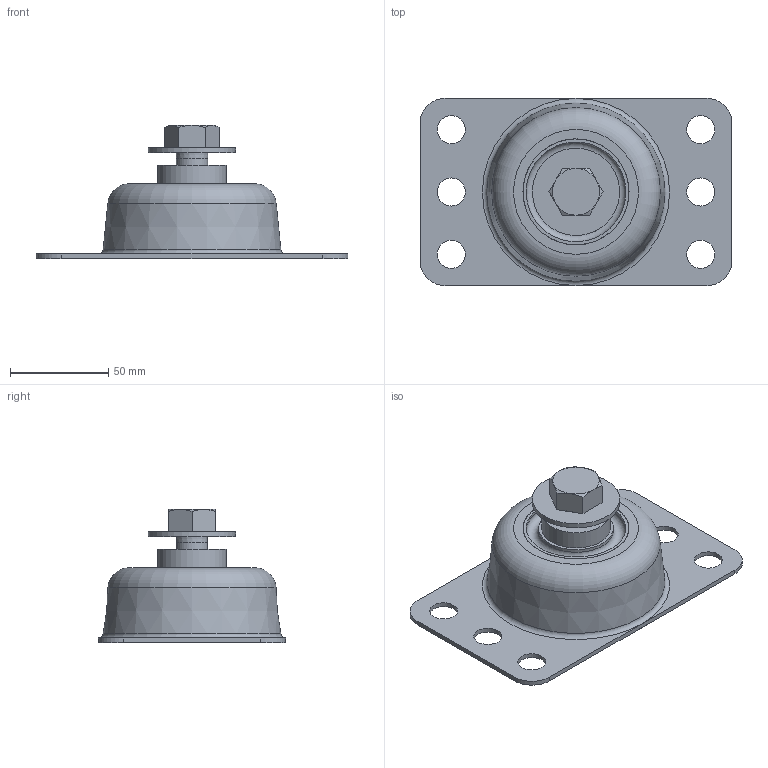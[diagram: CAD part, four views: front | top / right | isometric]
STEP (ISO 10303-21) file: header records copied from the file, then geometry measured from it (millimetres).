
FILE_DESCRIPTION(/* description */ (''),/* implementation_level */ '2;1');
FILE_NAME(/* name */ '\\Mleuckthor2\cad-proe_solids\WEBSITE FILES 05.22.13\STEP\RAA, RBA, RCA, RDA\RCA.stp',/* time_stamp */ '2016-01-15T16:39:54-05:00',/* author */ ('rramoutar'),/* organization */ ('Mason Industries Inc.'),/* preprocessor_version */ 'ST-DEVELOPER v15.6',/* originating_system */ 'Autodesk Inventor 2015',/* authorisation */ '');
FILE_SCHEMA (('CONFIG_CONTROL_DESIGN'));
Length unit declared in the file: inch
Products named in the file (1): A-21178 RCA MOUNT
Bounding box: 158.75 x 95.25 x 67.79 mm (x, y, z)
Volume: 237183.8 mm3; surface area: 93329.4 mm2
Topology: 6 solids, 6 shells, 96 faces, 194 edges, 117 vertices
Faces by surface type: plane 39, cylinder 25, cone 17, torus 15
Full cylindrical faces by diameter (mm): 14.287 x6, 15.875 x2, 16.662 x1, 22.225 x1, 23.825 x1, 34.925 x2, 36.512 x1, 38.1 x1, 41.275 x2, 44.45 x1, 50.8 x1, 53.975 x2
Entity records: 2387 total; most frequent: DIRECTION 418, CARTESIAN_POINT 377, ORIENTED_EDGE 286, AXIS2_PLACEMENT_3D 190, EDGE_LOOP 172, EDGE_CURVE 143, VERTEX_POINT 113, STYLED_ITEM 102
